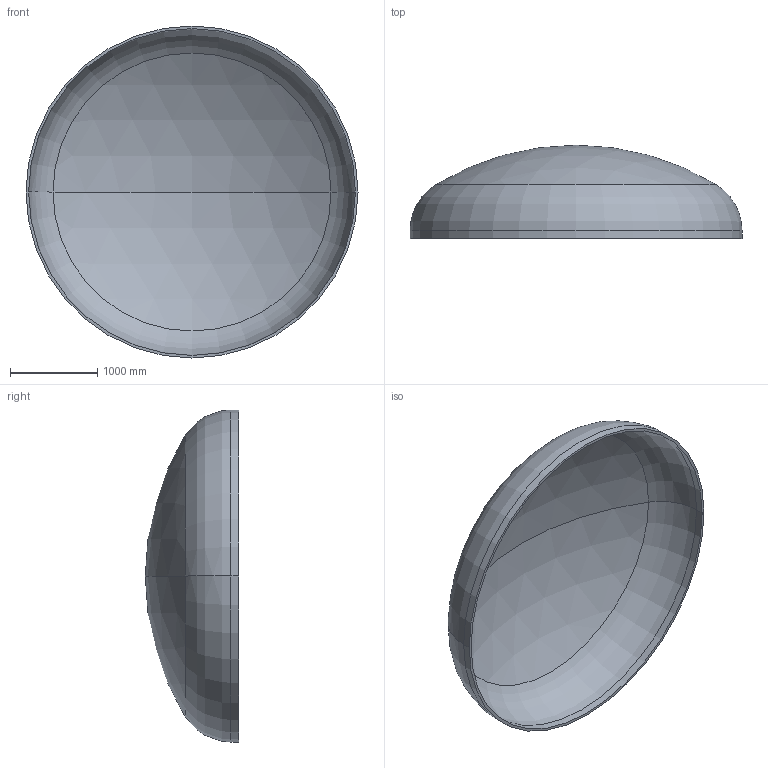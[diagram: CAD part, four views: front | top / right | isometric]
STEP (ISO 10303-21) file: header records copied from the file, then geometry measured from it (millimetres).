
FILE_DESCRIPTION (( 'STEP AP203' ), '1' );
FILE_NAME ('DIN 28013 Korbbogenform_-_Boden DIN 28013 - 3800 x 90 - I - s=30.step', '2016-07-01T21:15:35', ( '' ), ( '' ), 'SwSTEP 2.0', 'SolidWorks 2013', '' );
FILE_SCHEMA (( 'CONFIG_CONTROL_DESIGN' ));
Length unit declared in the file: millimetre
Products named in the file (1): DIN 28013 Korbbogenform_-_Boden DIN 28013 - 3800 x 90 - I - s=30
Bounding box: 3800 x 1068.16 x 3800 mm (x, y, z)
Volume: 498276401 mm3; surface area: 33575613.2 mm2
Topology: 1 solids, 1 shells, 13 faces, 24 edges, 14 vertices
Faces by surface type: torus 4, cylinder 4, sphere 4, plane 1
Entity records: 407 total; most frequent: DIRECTION 72, CARTESIAN_POINT 52, ORIENTED_EDGE 48, AXIS2_PLACEMENT_3D 34, EDGE_CURVE 24, CIRCLE 20, EDGE_LOOP 14, VERTEX_POINT 14
